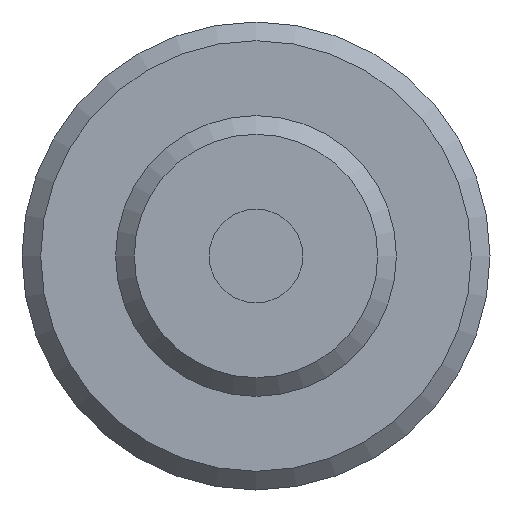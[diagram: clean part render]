
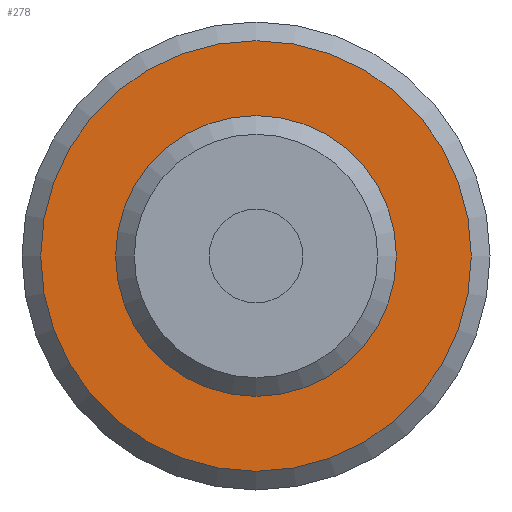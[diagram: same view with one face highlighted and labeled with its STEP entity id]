
A CAD part, front view. The second image highlights one B-rep face of the part: STEP entity #278.
In plain terms, the highlighted planar face has unit normal (0, -1, 0).
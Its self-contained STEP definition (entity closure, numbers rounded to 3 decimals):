
#33=FACE_BOUND('',#80,.T.);
#40=PLANE('',#327);
#55=FACE_OUTER_BOUND('',#79,.T.);
#79=EDGE_LOOP('',(#227));
#80=EDGE_LOOP('',(#228));
#131=CIRCLE('',#326,7.5);
#132=CIRCLE('',#328,11.5);
#152=VERTEX_POINT('',#485);
#153=VERTEX_POINT('',#489);
#178=EDGE_CURVE('',#152,#152,#131,.T.);
#180=EDGE_CURVE('',#153,#153,#132,.T.);
#227=ORIENTED_EDGE('',*,*,#180,.F.);
#228=ORIENTED_EDGE('',*,*,#178,.T.);
#278=ADVANCED_FACE('',(#55,#33),#40,.T.);
#326=AXIS2_PLACEMENT_3D('',#486,#393,#394);
#327=AXIS2_PLACEMENT_3D('',#488,#396,#397);
#328=AXIS2_PLACEMENT_3D('',#490,#398,#399);
#393=DIRECTION('center_axis',(0.,1.,0.));
#394=DIRECTION('ref_axis',(1.,0.,0.));
#396=DIRECTION('center_axis',(0.,-1.,0.));
#397=DIRECTION('ref_axis',(0.,0.,-1.));
#398=DIRECTION('center_axis',(0.,1.,0.));
#399=DIRECTION('ref_axis',(1.,0.,0.));
#485=CARTESIAN_POINT('',(0.,20.,-7.5));
#486=CARTESIAN_POINT('Origin',(0.,20.,0.));
#488=CARTESIAN_POINT('Origin',(0.,20.,11.5));
#489=CARTESIAN_POINT('',(0.,20.,-11.5));
#490=CARTESIAN_POINT('Origin',(0.,20.,0.));
